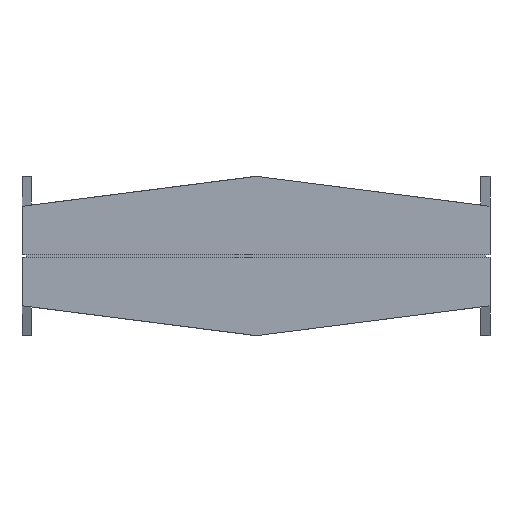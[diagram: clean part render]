
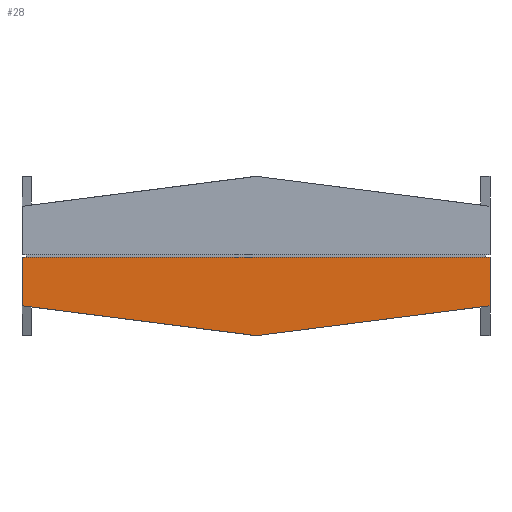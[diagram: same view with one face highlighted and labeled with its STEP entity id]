
A CAD part, front view. The second image highlights one B-rep face of the part: STEP entity #28.
In plain terms, the highlighted planar face has unit normal (0, -1, 0).
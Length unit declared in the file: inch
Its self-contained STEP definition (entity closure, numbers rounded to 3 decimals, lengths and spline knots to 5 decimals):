
#28=ADVANCED_FACE('',(#76),#732,.T.);
#76=FACE_OUTER_BOUND('',#124,.T.);
#124=EDGE_LOOP('',(#198,#199,#200,#201,#202));
#198=ORIENTED_EDGE('',*,*,#430,.T.);
#199=ORIENTED_EDGE('',*,*,#412,.F.);
#200=ORIENTED_EDGE('',*,*,#410,.F.);
#201=ORIENTED_EDGE('',*,*,#431,.F.);
#202=ORIENTED_EDGE('',*,*,#423,.F.);
#410=EDGE_CURVE('',#649,#650,#530,.T.);
#412=EDGE_CURVE('',#650,#644,#532,.T.);
#423=EDGE_CURVE('',#657,#659,#543,.T.);
#430=EDGE_CURVE('',#657,#644,#550,.T.);
#431=EDGE_CURVE('',#659,#649,#551,.T.);
#530=B_SPLINE_CURVE_WITH_KNOTS('',1,(#1009,#1010),.UNSPECIFIED.,.F.,.F.,
(2,2),(-206.16198,-194.3277),.UNSPECIFIED.);
#532=B_SPLINE_CURVE_WITH_KNOTS('',1,(#1013,#1014),.UNSPECIFIED.,.F.,.F.,
(2,2),(-194.3277,-182.49342),.UNSPECIFIED.);
#543=B_SPLINE_CURVE_WITH_KNOTS('',1,(#1043,#1044),.UNSPECIFIED.,.F.,.F.,
(2,2),(0.125,23.625),.UNSPECIFIED.);
#550=B_SPLINE_CURVE_WITH_KNOTS('',1,(#1057,#1058),.UNSPECIFIED.,.F.,.F.,
(2,2),(237.38884,239.82494),.UNSPECIFIED.);
#551=B_SPLINE_CURVE_WITH_KNOTS('',1,(#1059,#1060),.UNSPECIFIED.,.F.,.F.,
(2,2),(-208.59808,-206.16198),.UNSPECIFIED.);
#644=VERTEX_POINT('',#977);
#649=VERTEX_POINT('',#982);
#650=VERTEX_POINT('',#983);
#657=VERTEX_POINT('',#990);
#659=VERTEX_POINT('',#992);
#732=PLANE('',#871);
#871=AXIS2_PLACEMENT_3D('',#973,#922,$);
#922=DIRECTION('',(0.,-1.,0.));
#973=CARTESIAN_POINT('',(2710.03372,171.99431,117.17713));
#977=CARTESIAN_POINT('',(2710.03372,171.99431,114.74102));
#982=CARTESIAN_POINT('',(2733.53372,171.99431,114.74102));
#983=CARTESIAN_POINT('',(2721.78372,171.99431,113.24102));
#990=CARTESIAN_POINT('',(2710.03372,171.99431,117.17713));
#992=CARTESIAN_POINT('',(2733.53372,171.99431,117.17713));
#1009=CARTESIAN_POINT('',(2733.53372,171.99431,114.74102));
#1010=CARTESIAN_POINT('',(2721.78372,171.99431,113.24102));
#1013=CARTESIAN_POINT('',(2721.78372,171.99431,113.24102));
#1014=CARTESIAN_POINT('',(2710.03372,171.99431,114.74102));
#1043=CARTESIAN_POINT('',(2710.03372,171.99431,117.17713));
#1044=CARTESIAN_POINT('',(2733.53372,171.99431,117.17713));
#1057=CARTESIAN_POINT('',(2710.03372,171.99431,117.17713));
#1058=CARTESIAN_POINT('',(2710.03372,171.99431,114.74102));
#1059=CARTESIAN_POINT('',(2733.53372,171.99431,117.17713));
#1060=CARTESIAN_POINT('',(2733.53372,171.99431,114.74102));
